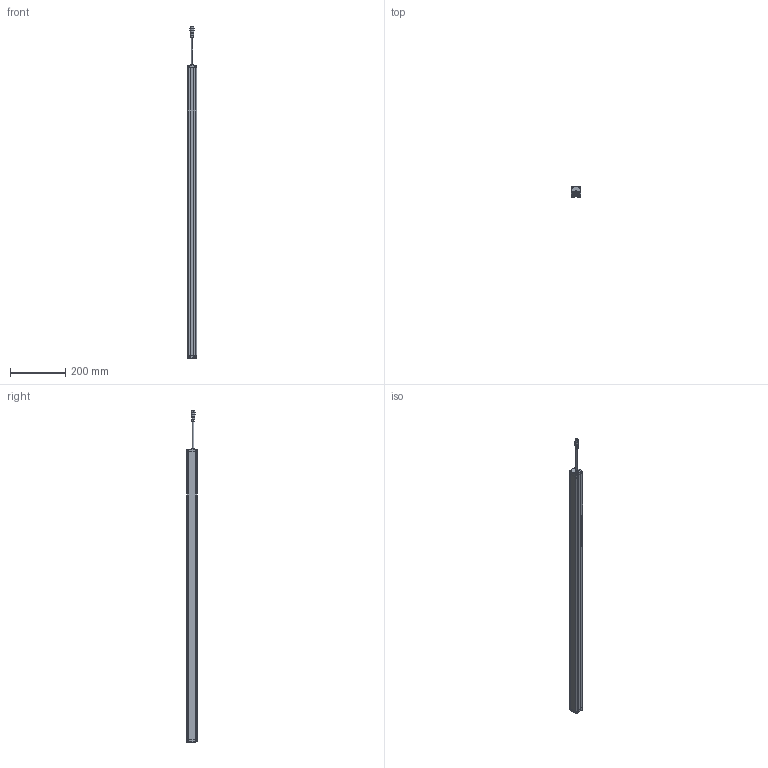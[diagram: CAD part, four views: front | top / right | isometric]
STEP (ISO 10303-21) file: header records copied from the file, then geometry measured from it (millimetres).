
FILE_DESCRIPTION((''),'2;1');
FILE_NAME('PRT0026','2026-03-31T13:13:19',('Administrator'),(''),'CREO PARAMETRIC BY PTC INC, 2016510','CREO PARAMETRIC BY PTC INC, 2016510','');
FILE_SCHEMA(('AUTOMOTIVE_DESIGN { 1 0 10303 214 1 1 1 1 }'));
Length unit declared in the file: millimetre
Products named in the file (1): PRT0026
Bounding box: 33 x 38 x 1201.9 mm (x, y, z)
Surface area: 234394.3 mm2 (no closed solid volume)
Topology: 0 solids, 12 shells, 815 faces, 2161 edges, 1365 vertices
Faces by surface type: plane 384, cylinder 235, extrusion 88, sphere 40, torus 36, cone 28, bspline 4
Entity records: 32094 total; most frequent: CARTESIAN_POINT 6074, ORIENTED_EDGE 4218, DIRECTION 3989, EDGE_CURVE 2109, VERTEX_POINT 1365, AXIS2_PLACEMENT_3D 1357, VECTOR 1275, LINE 1187
